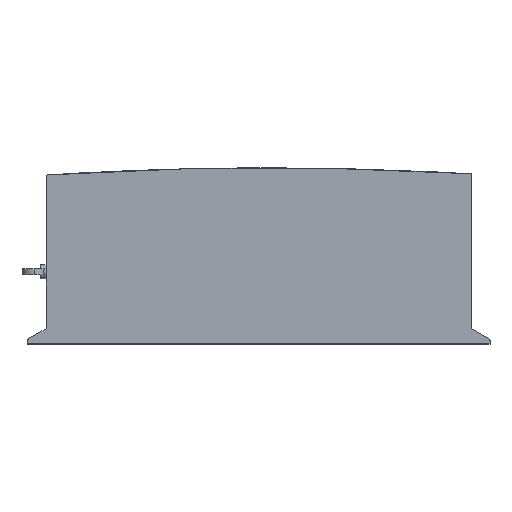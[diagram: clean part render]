
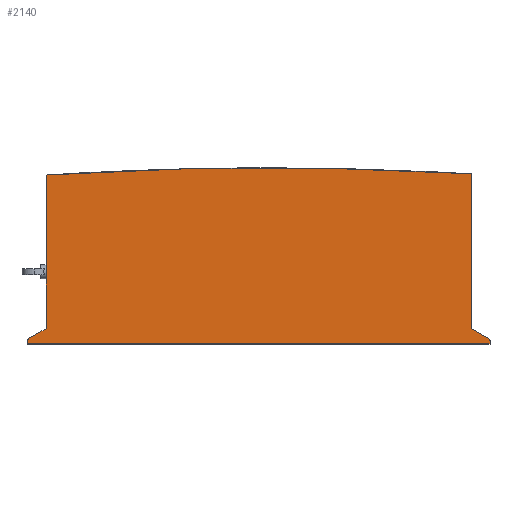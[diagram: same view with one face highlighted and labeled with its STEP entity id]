
A CAD part, top view. The second image highlights one B-rep face of the part: STEP entity #2140.
In plain terms, the highlighted planar face has unit normal (0, 0, 1).
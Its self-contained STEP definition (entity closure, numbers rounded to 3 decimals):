
#88 = CARTESIAN_POINT ( 'NONE',  ( -249.09, 205.261, 330. ) ) ;
#176 = LINE ( 'NONE', #9382, #293 ) ;
#256 = CARTESIAN_POINT ( 'NONE',  ( -249.09, 205.261, 330. ) ) ;
#292 = DIRECTION ( 'NONE',  ( -1., 0., 0. ) ) ;
#293 = VECTOR ( 'NONE', #8555, 1000. ) ;
#316 = DIRECTION ( 'NONE',  ( -1., 0., 0. ) ) ;
#358 = PLANE ( 'NONE',  #2172 ) ;
#386 = CARTESIAN_POINT ( 'NONE',  ( 166.478, -6169.535, 330. ) ) ;
#543 = LINE ( 'NONE', #7180, #7498 ) ;
#901 = EDGE_CURVE ( 'NONE', #4522, #1908, #8174, .T. ) ;
#915 = DIRECTION ( 'NONE',  ( 0., 0., 1. ) ) ;
#941 = CARTESIAN_POINT ( 'NONE',  ( 545.91, 207.514, 330. ) ) ;
#1132 = DIRECTION ( 'NONE',  ( 0., -1., 0. ) ) ;
#1156 = CARTESIAN_POINT ( 'NONE',  ( 580.91, -110.502, 330. ) ) ;
#1305 = EDGE_CURVE ( 'NONE', #7476, #4645, #5587, .T. ) ;
#1379 = ORIENTED_EDGE ( 'NONE', *, *, #7355, .T. ) ;
#1465 = VECTOR ( 'NONE', #5708, 1000. ) ;
#1549 = LINE ( 'NONE', #256, #5310 ) ;
#1555 = VERTEX_POINT ( 'NONE', #9324 ) ;
#1586 = DIRECTION ( 'NONE',  ( -0.868, -0.496, 0. ) ) ;
#1908 = VERTEX_POINT ( 'NONE', #8510 ) ;
#2136 = CARTESIAN_POINT ( 'NONE',  ( -279.09, -104.804, 330. ) ) ;
#2140 = ADVANCED_FACE ( 'NONE', ( #7625 ), #358, .F. ) ;
#2172 = AXIS2_PLACEMENT_3D ( 'NONE', #5124, #4396, #292 ) ;
#2243 = ORIENTED_EDGE ( 'NONE', *, *, #8639, .T. ) ;
#2352 = DIRECTION ( 'NONE',  ( -0.868, 0.496, 0. ) ) ;
#2479 = VECTOR ( 'NONE', #3791, 1000. ) ;
#2528 = CARTESIAN_POINT ( 'NONE',  ( 580.91, -104.804, 330. ) ) ;
#2634 = AXIS2_PLACEMENT_3D ( 'NONE', #386, #7689, #316 ) ;
#2941 = DIRECTION ( 'NONE',  ( 0., 0., 1. ) ) ;
#2986 = VERTEX_POINT ( 'NONE', #2528 ) ;
#3039 = CARTESIAN_POINT ( 'NONE',  ( -249.09, 30.266, 330. ) ) ;
#3391 = VERTEX_POINT ( 'NONE', #3039 ) ;
#3415 = CARTESIAN_POINT ( 'NONE',  ( -284.09, -110.502, 330. ) ) ;
#3515 = ORIENTED_EDGE ( 'NONE', *, *, #5682, .T. ) ;
#3557 = CIRCLE ( 'NONE', #5367, 5. ) ;
#3606 = LINE ( 'NONE', #8891, #4339 ) ;
#3791 = DIRECTION ( 'NONE',  ( 0., -1., 0. ) ) ;
#3796 = VECTOR ( 'NONE', #2352, 1000. ) ;
#3908 = ORIENTED_EDGE ( 'NONE', *, *, #6989, .T. ) ;
#4046 = LINE ( 'NONE', #7055, #3796 ) ;
#4148 = EDGE_CURVE ( 'NONE', #3391, #8592, #1549, .T. ) ;
#4339 = VECTOR ( 'NONE', #1586, 1000. ) ;
#4396 = DIRECTION ( 'NONE',  ( 0., 0., -1. ) ) ;
#4522 = VERTEX_POINT ( 'NONE', #7415 ) ;
#4645 = VERTEX_POINT ( 'NONE', #1156 ) ;
#4688 = ORIENTED_EDGE ( 'NONE', *, *, #8563, .T. ) ;
#4696 = AXIS2_PLACEMENT_3D ( 'NONE', #2136, #2941, #8590 ) ;
#4918 = ORIENTED_EDGE ( 'NONE', *, *, #4148, .T. ) ;
#4978 = CIRCLE ( 'NONE', #4696, 5. ) ;
#5124 = CARTESIAN_POINT ( 'NONE',  ( 166.478, -6169.535, 330. ) ) ;
#5178 = ORIENTED_EDGE ( 'NONE', *, *, #9827, .T. ) ;
#5310 = VECTOR ( 'NONE', #1132, 1000. ) ;
#5367 = AXIS2_PLACEMENT_3D ( 'NONE', #9714, #915, #8907 ) ;
#5468 = VECTOR ( 'NONE', #6487, 1000. ) ;
#5532 = ORIENTED_EDGE ( 'NONE', *, *, #6592, .T. ) ;
#5587 = LINE ( 'NONE', #3415, #5468 ) ;
#5682 = EDGE_CURVE ( 'NONE', #2986, #1555, #3557, .T. ) ;
#5708 = DIRECTION ( 'NONE',  ( 0., 1., 0. ) ) ;
#6487 = DIRECTION ( 'NONE',  ( 1., 0., 0. ) ) ;
#6592 = EDGE_CURVE ( 'NONE', #6666, #3391, #9584, .T. ) ;
#6666 = VERTEX_POINT ( 'NONE', #88 ) ;
#6864 = CARTESIAN_POINT ( 'NONE',  ( -284.09, -110.502, 330. ) ) ;
#6874 = LINE ( 'NONE', #10350, #2479 ) ;
#6989 = EDGE_CURVE ( 'NONE', #1555, #4522, #4046, .T. ) ;
#7055 = CARTESIAN_POINT ( 'NONE',  ( 545.91, -81.902, 330. ) ) ;
#7180 = CARTESIAN_POINT ( 'NONE',  ( -249.09, 205.261, 330. ) ) ;
#7191 = ORIENTED_EDGE ( 'NONE', *, *, #1305, .T. ) ;
#7254 = CARTESIAN_POINT ( 'NONE',  ( -249.09, -81.902, 330. ) ) ;
#7284 = DIRECTION ( 'NONE',  ( 0., -1., 0. ) ) ;
#7355 = EDGE_CURVE ( 'NONE', #9117, #7476, #6874, .T. ) ;
#7415 = CARTESIAN_POINT ( 'NONE',  ( 545.91, -81.902, 330. ) ) ;
#7476 = VERTEX_POINT ( 'NONE', #6864 ) ;
#7498 = VECTOR ( 'NONE', #9574, 1000. ) ;
#7622 = CARTESIAN_POINT ( 'NONE',  ( -281.571, -100.463, 330. ) ) ;
#7625 = FACE_OUTER_BOUND ( 'NONE', #10121, .T. ) ;
#7689 = DIRECTION ( 'NONE',  ( 0., 0., 1. ) ) ;
#7716 = VECTOR ( 'NONE', #7284, 1000. ) ;
#8152 = CARTESIAN_POINT ( 'NONE',  ( -284.09, -104.804, 330. ) ) ;
#8174 = LINE ( 'NONE', #941, #1465 ) ;
#8510 = CARTESIAN_POINT ( 'NONE',  ( 545.91, 207.514, 330. ) ) ;
#8555 = DIRECTION ( 'NONE',  ( 0., 1., 0. ) ) ;
#8563 = EDGE_CURVE ( 'NONE', #9672, #9117, #4978, .T. ) ;
#8590 = DIRECTION ( 'NONE',  ( 1., 0., 0. ) ) ;
#8592 = VERTEX_POINT ( 'NONE', #10393 ) ;
#8639 = EDGE_CURVE ( 'NONE', #9956, #9672, #3606, .T. ) ;
#8792 = ORIENTED_EDGE ( 'NONE', *, *, #901, .T. ) ;
#8891 = CARTESIAN_POINT ( 'NONE',  ( -281.571, -100.463, 330. ) ) ;
#8907 = DIRECTION ( 'NONE',  ( 1., 0., 0. ) ) ;
#9117 = VERTEX_POINT ( 'NONE', #8152 ) ;
#9156 = ORIENTED_EDGE ( 'NONE', *, *, #10086, .T. ) ;
#9324 = CARTESIAN_POINT ( 'NONE',  ( 578.391, -100.463, 330. ) ) ;
#9382 = CARTESIAN_POINT ( 'NONE',  ( 580.91, -104.804, 330. ) ) ;
#9496 = ORIENTED_EDGE ( 'NONE', *, *, #9598, .T. ) ;
#9574 = DIRECTION ( 'NONE',  ( 0., -1., 0. ) ) ;
#9584 = LINE ( 'NONE', #10422, #7716 ) ;
#9598 = EDGE_CURVE ( 'NONE', #1908, #6666, #10243, .T. ) ;
#9672 = VERTEX_POINT ( 'NONE', #7622 ) ;
#9714 = CARTESIAN_POINT ( 'NONE',  ( 575.91, -104.804, 330. ) ) ;
#9827 = EDGE_CURVE ( 'NONE', #4645, #2986, #176, .T. ) ;
#9956 = VERTEX_POINT ( 'NONE', #7254 ) ;
#10086 = EDGE_CURVE ( 'NONE', #8592, #9956, #543, .T. ) ;
#10121 = EDGE_LOOP ( 'NONE', ( #9496, #5532, #4918, #9156, #2243, #4688, #1379, #7191, #5178, #3515, #3908, #8792 ) ) ;
#10243 = CIRCLE ( 'NONE', #2634, 6388.327 ) ;
#10350 = CARTESIAN_POINT ( 'NONE',  ( -284.09, -104.804, 330. ) ) ;
#10393 = CARTESIAN_POINT ( 'NONE',  ( -249.09, 18.529, 330. ) ) ;
#10422 = CARTESIAN_POINT ( 'NONE',  ( -249.09, 205.261, 330. ) ) ;
